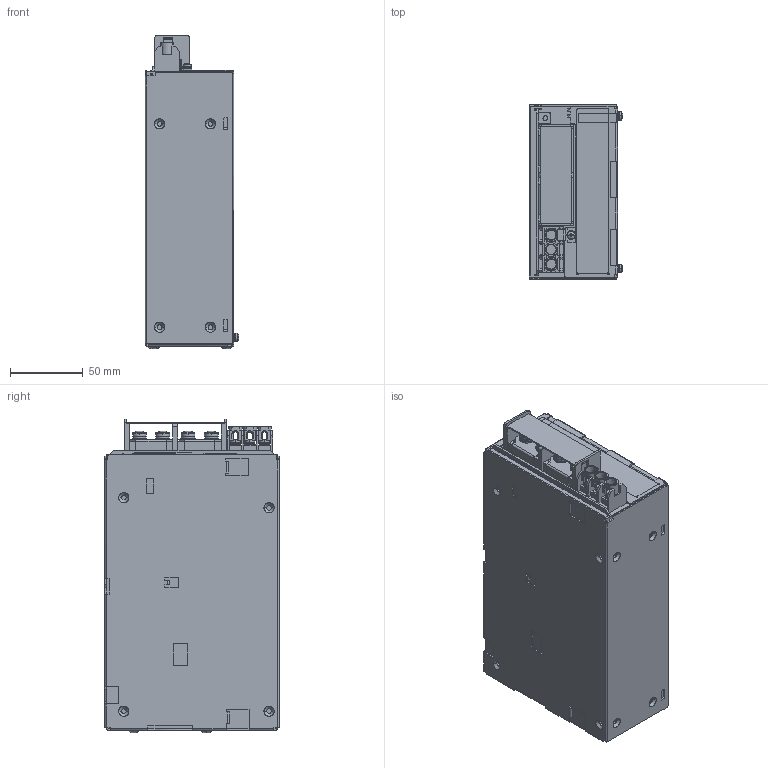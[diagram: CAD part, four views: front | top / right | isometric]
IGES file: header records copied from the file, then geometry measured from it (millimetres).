
Start section: SolidWorks IGES file using analytic representation for surfaces
Global section: file name: C:\Users\46000747\Desktop\rws600b_outline2.IGS; native system: SolidWorks 2013; preprocessor: SolidWorks 2013; author: a489167; date: 140724.173438; units: millimetre
Bounding box: 64.55 x 120.1 x 215.8 mm (x, y, z)
Surface area: 114875.3 mm2 (no closed solid volume)
Topology: 0 solids, 0 shells, 1919 faces, 23941 edges, 23924 vertices
Faces by surface type: bspline 1159, revolution 760
